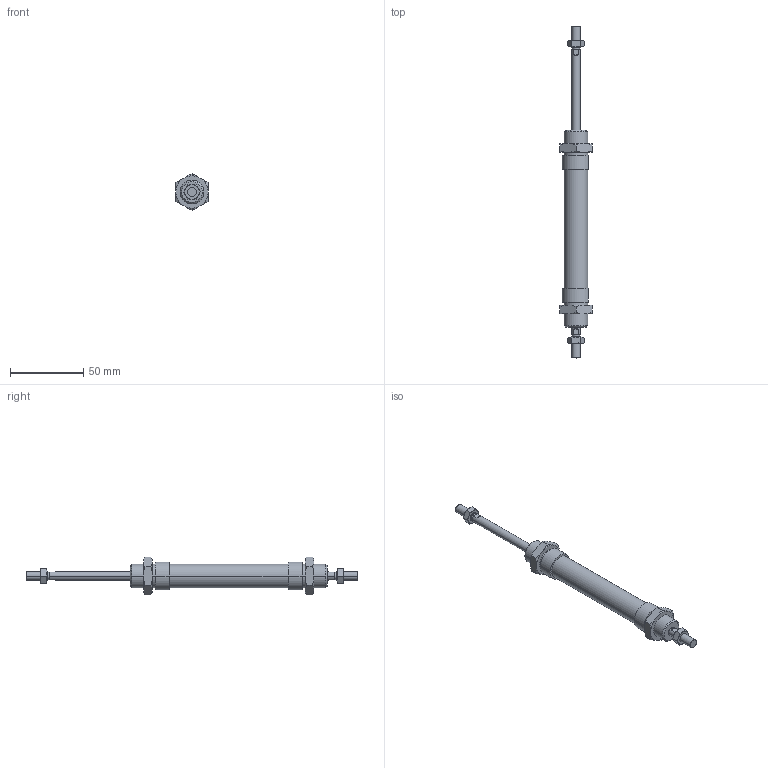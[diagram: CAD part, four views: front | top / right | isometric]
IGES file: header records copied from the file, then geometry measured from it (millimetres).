
Global section: file name: No Iges File Name specified; native system: AutoDesk Inventor R6.0; preprocessor: AutoDesk Inventor Iges Exporter R6.0; author: No Author specified; organization: No Organization specified; date: 20030403.072024; units: millimetre
Bounding box: 22 x 226 x 25.4 mm (x, y, z)
Volume: 34197.6 mm3; surface area: 17438.4 mm2
Topology: 6 solids, 6 shells, 180 faces, 388 edges, 228 vertices
Faces by surface type: cone 68, plane 56, bspline 30, cylinder 20, revolution 6
